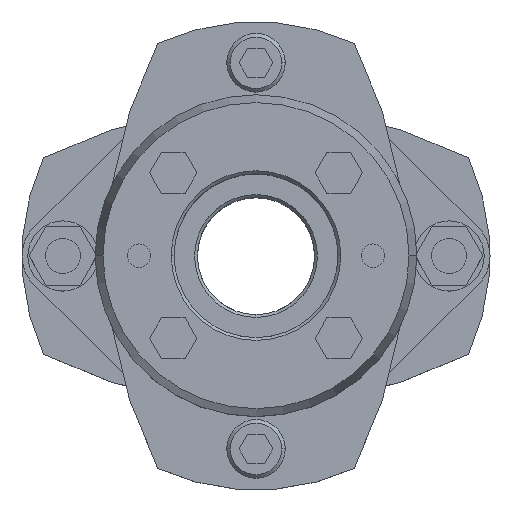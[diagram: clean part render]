
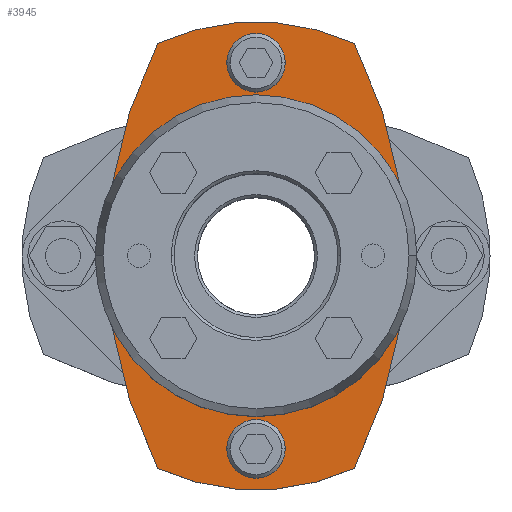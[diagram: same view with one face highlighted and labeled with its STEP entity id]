
A CAD part, top view. The second image highlights one B-rep face of the part: STEP entity #3945.
In plain terms, the highlighted planar face has unit normal (0, 0, 1).
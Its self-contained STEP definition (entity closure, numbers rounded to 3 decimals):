
#1387=CARTESIAN_POINT('',(-25.5,0.,9.875));
#1388=VERTEX_POINT('',#1387);
#1404=CARTESIAN_POINT('',(-16.787,-36.307,9.875));
#1405=VERTEX_POINT('',#1404);
#1412=CARTESIAN_POINT('',(54.5,0.,9.875));
#1413=DIRECTION('',(0.0,0.0,-1.0));
#1414=DIRECTION('',(-1.0,0.0,0.0));
#1415=AXIS2_PLACEMENT_3D('',#1412,#1413,#1414);
#1416=CIRCLE('',#1415,80.);
#1417=EDGE_CURVE('',#1405,#1388,#1416,.T.);
#1427=CARTESIAN_POINT('',(25.5,0.,9.875));
#1428=VERTEX_POINT('',#1427);
#1437=CARTESIAN_POINT('',(16.787,-36.307,9.875));
#1438=VERTEX_POINT('',#1437);
#1439=CARTESIAN_POINT('',(-54.5,0.,9.875));
#1440=DIRECTION('',(0.0,0.0,-1.0));
#1441=DIRECTION('',(-1.0,0.0,0.0));
#1442=AXIS2_PLACEMENT_3D('',#1439,#1440,#1441);
#1443=CIRCLE('',#1442,80.);
#1444=EDGE_CURVE('',#1428,#1438,#1443,.T.);
#1693=CARTESIAN_POINT('',(-24.,0.,9.875));
#1694=VERTEX_POINT('',#1693);
#1744=CARTESIAN_POINT('',(24.,0.,9.875));
#1745=VERTEX_POINT('',#1744);
#1752=CARTESIAN_POINT('',(0.,0.,9.875));
#1753=DIRECTION('',(0.0,0.0,-1.0));
#1754=DIRECTION('',(-1.0,0.0,0.0));
#1755=AXIS2_PLACEMENT_3D('',#1752,#1753,#1754);
#1756=CIRCLE('',#1755,24.0);
#1757=EDGE_CURVE('',#1694,#1745,#1756,.T.);
#1853=CARTESIAN_POINT('',(-5.,33.0,9.875));
#1854=VERTEX_POINT('',#1853);
#1870=CARTESIAN_POINT('',(5.,33.0,9.875));
#1871=VERTEX_POINT('',#1870);
#1878=CARTESIAN_POINT('',(0.,33.0,9.875));
#1879=DIRECTION('',(0.0,0.0,-1.0));
#1880=DIRECTION('',(-1.0,0.0,0.0));
#1881=AXIS2_PLACEMENT_3D('',#1878,#1879,#1880);
#1882=CIRCLE('',#1881,5.0);
#1883=EDGE_CURVE('',#1854,#1871,#1882,.T.);
#1927=CARTESIAN_POINT('',(-5.,-33.0,9.875));
#1928=VERTEX_POINT('',#1927);
#1944=CARTESIAN_POINT('',(5.,-33.0,9.875));
#1945=VERTEX_POINT('',#1944);
#1952=CARTESIAN_POINT('',(0.,-33.0,9.875));
#1953=DIRECTION('',(0.0,0.0,-1.0));
#1954=DIRECTION('',(-1.0,0.0,0.0));
#1955=AXIS2_PLACEMENT_3D('',#1952,#1953,#1954);
#1956=CIRCLE('',#1955,5.0);
#1957=EDGE_CURVE('',#1928,#1945,#1956,.T.);
#2496=CARTESIAN_POINT('',(0.,-33.0,9.875));
#2497=DIRECTION('',(0.0,0.0,-1.0));
#2498=DIRECTION('',(-1.0,0.0,0.0));
#2499=AXIS2_PLACEMENT_3D('',#2496,#2497,#2498);
#2500=CIRCLE('',#2499,5.0);
#2501=EDGE_CURVE('',#1945,#1928,#2500,.T.);
#2556=CARTESIAN_POINT('',(0.,33.0,9.875));
#2557=DIRECTION('',(0.0,0.0,-1.0));
#2558=DIRECTION('',(-1.0,0.0,0.0));
#2559=AXIS2_PLACEMENT_3D('',#2556,#2557,#2558);
#2560=CIRCLE('',#2559,5.0);
#2561=EDGE_CURVE('',#1871,#1854,#2560,.T.);
#3628=CARTESIAN_POINT('',(0.,0.,9.875));
#3629=DIRECTION('',(0.0,0.0,-1.0));
#3630=DIRECTION('',(-1.0,0.0,0.0));
#3631=AXIS2_PLACEMENT_3D('',#3628,#3629,#3630);
#3632=CIRCLE('',#3631,24.0);
#3633=EDGE_CURVE('',#1745,#1694,#3632,.T.);
#3841=CARTESIAN_POINT('',(16.787,36.307,9.875));
#3842=VERTEX_POINT('',#3841);
#3849=CARTESIAN_POINT('',(-54.5,0.,9.875));
#3850=DIRECTION('',(0.0,0.0,-1.0));
#3851=DIRECTION('',(-1.0,0.0,0.0));
#3852=AXIS2_PLACEMENT_3D('',#3849,#3850,#3851);
#3853=CIRCLE('',#3852,80.);
#3854=EDGE_CURVE('',#3842,#1428,#3853,.T.);
#3864=CARTESIAN_POINT('',(0.,0.,9.875));
#3865=DIRECTION('',(0.0,0.0,-1.0));
#3866=DIRECTION('',(-1.0,0.0,0.0));
#3867=AXIS2_PLACEMENT_3D('',#3864,#3865,#3866);
#3868=CIRCLE('',#3867,40.);
#3869=EDGE_CURVE('',#1438,#1405,#3868,.T.);
#3883=CARTESIAN_POINT('',(-16.787,36.307,9.875));
#3884=VERTEX_POINT('',#3883);
#3885=CARTESIAN_POINT('',(54.5,0.,9.875));
#3886=DIRECTION('',(0.0,0.0,-1.0));
#3887=DIRECTION('',(-1.0,0.0,0.0));
#3888=AXIS2_PLACEMENT_3D('',#3885,#3886,#3887);
#3889=CIRCLE('',#3888,80.);
#3890=EDGE_CURVE('',#1388,#3884,#3889,.T.);
#3907=CARTESIAN_POINT('',(0.,0.,9.875));
#3908=DIRECTION('',(0.0,0.0,-1.0));
#3909=DIRECTION('',(-1.0,0.0,0.0));
#3910=AXIS2_PLACEMENT_3D('',#3907,#3908,#3909);
#3911=CIRCLE('',#3910,40.);
#3912=EDGE_CURVE('',#3884,#3842,#3911,.T.);
#3920=CARTESIAN_POINT('',(0.,0.,9.875));
#3921=DIRECTION('',(0.0,0.0,1.0));
#3922=DIRECTION('',(-1.0,0.0,0.0));
#3923=AXIS2_PLACEMENT_3D('',#3920,#3921,#3922);
#3924=PLANE('',#3923);
#3925=ORIENTED_EDGE('',*,*,#3854,.F.);
#3926=ORIENTED_EDGE('',*,*,#3912,.F.);
#3927=ORIENTED_EDGE('',*,*,#3890,.F.);
#3928=ORIENTED_EDGE('',*,*,#1417,.F.);
#3929=ORIENTED_EDGE('',*,*,#3869,.F.);
#3930=ORIENTED_EDGE('',*,*,#1444,.F.);
#3931=EDGE_LOOP('',(#3925,#3926,#3927,#3928,#3929,#3930));
#3932=FACE_OUTER_BOUND('',#3931,.T.);
#3933=ORIENTED_EDGE('',*,*,#1957,.T.);
#3934=ORIENTED_EDGE('',*,*,#2501,.T.);
#3935=EDGE_LOOP('',(#3933,#3934));
#3936=FACE_BOUND('',#3935,.T.);
#3937=ORIENTED_EDGE('',*,*,#1883,.T.);
#3938=ORIENTED_EDGE('',*,*,#2561,.T.);
#3939=EDGE_LOOP('',(#3937,#3938));
#3940=FACE_BOUND('',#3939,.T.);
#3941=ORIENTED_EDGE('',*,*,#1757,.T.);
#3942=ORIENTED_EDGE('',*,*,#3633,.T.);
#3943=EDGE_LOOP('',(#3941,#3942));
#3944=FACE_BOUND('',#3943,.T.);
#3945=ADVANCED_FACE('',(#3932,#3936,#3940,#3944),#3924,.T.);
